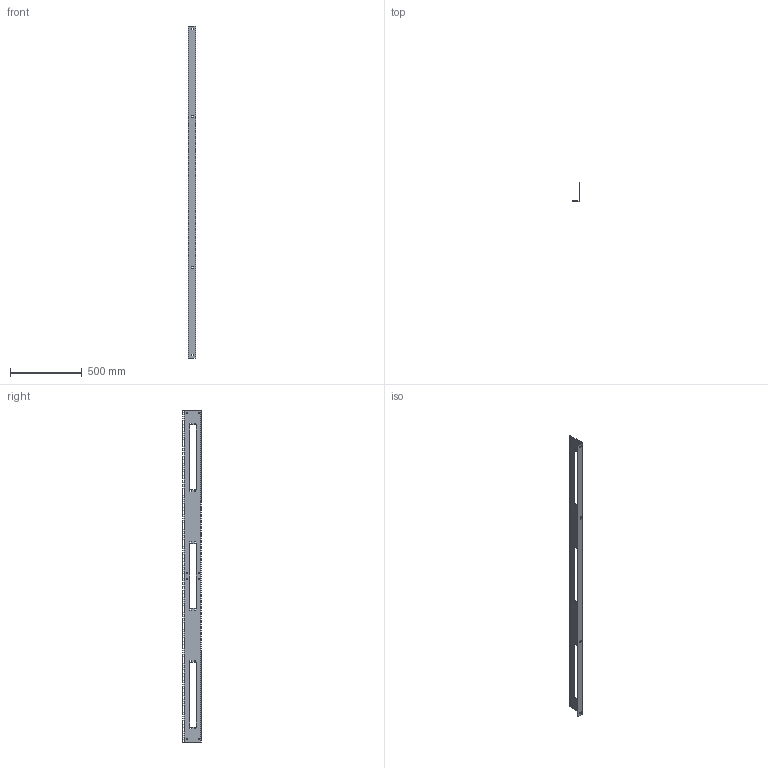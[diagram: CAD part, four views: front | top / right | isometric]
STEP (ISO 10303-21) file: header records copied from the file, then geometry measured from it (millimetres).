
FILE_DESCRIPTION(/* description */ ('Unknown'),/* implementation_level */ '2;1');
FILE_NAME(/* name */ 'H1SRR52U31BK',/* time_stamp */ '2021-03-18T08:17:27-04:00',/* author */ ('Unknown'),/* organization */ ('Unknown'),/* preprocessor_version */ 'ST-DEVELOPER v16.7',/* originating_system */ 'Solid Edge',/* authorisation */ 'Unknown');
FILE_SCHEMA (('AUTOMOTIVE_DESIGN {1 0 10303 214 3 1 1}'));
Length unit declared in the file: millimetre
Products named in the file (1): COM57244-34LW
Bounding box: 50.8 x 130.66 x 2312.16 mm (x, y, z)
Volume: 808558.9 mm3; surface area: 705997.2 mm2
Topology: 1 solids, 1 shells, 841 faces, 2480 edges, 1656 vertices
Faces by surface type: plane 792, cylinder 38, bspline 11
Full cylindrical faces by diameter (mm): 4.496 x8
Entity records: 28558 total; most frequent: CARTESIAN_POINT 5573, ORIENTED_EDGE 4928, DIRECTION 4106, EDGE_CURVE 2464, LINE 2292, VECTOR 2292, VERTEX_POINT 1648, EDGE_LOOP 1230
